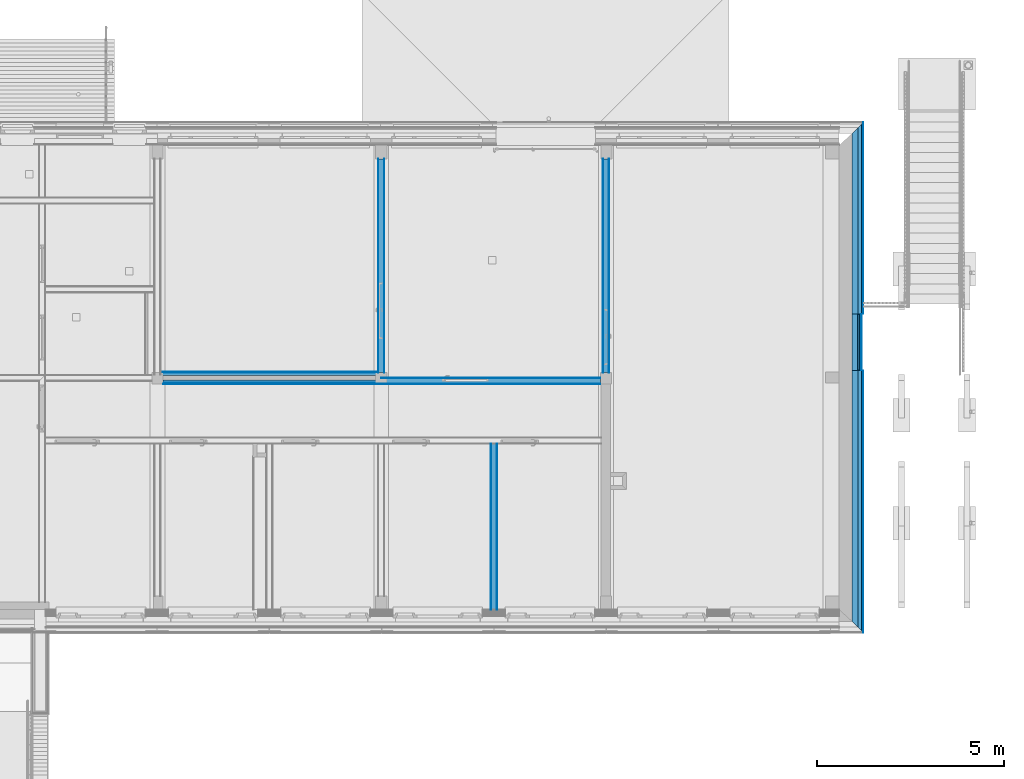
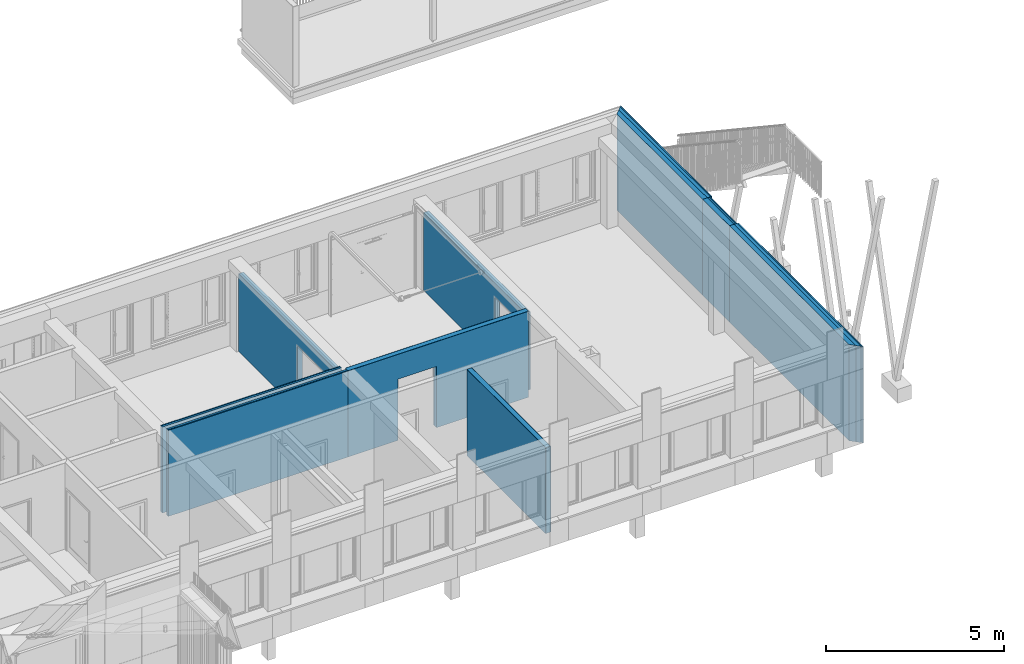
# One storey, part 44 of 418: 26 building element parts, 20 openings, 8 elements without a shape of their own.
"""IFC2X3 building model written with IfcOpenShell, lengths in millimetres."""

from ifc_helpers import new_model, entity, si_unit, converted_unit, derived_unit, money_unit, direction, frame, origin_with_axes, origin_2d_with_axis, place, context, subcontext, project, spatial, polyline, rectangle, outline, extrude, material, type_object, element, aggregate, save


model = new_model("IFC2X3")

# Units and contexts
model_context = context("Model", 3, precision=0.01, world=origin_with_axes(), true_north=direction((0.0, 1.0)))
body_context = subcontext(model_context, "Body", "Model", "MODEL_VIEW")
ifc_project = project(units=[si_unit("LENGTHUNIT", "METRE", prefix="MILLI"), si_unit("AREAUNIT", "SQUARE_METRE"), si_unit("VOLUMEUNIT", "CUBIC_METRE"), converted_unit("PLANEANGLEUNIT", "DEGREE", entity("IfcPlaneAngleMeasure", 0.0174532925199), si_unit("PLANEANGLEUNIT", "RADIAN"), dimensions=[0, 0, 0, 0, 0, 0, 0]), si_unit("SOLIDANGLEUNIT", "STERADIAN"), money_unit("EUR"), converted_unit("TIMEUNIT", "Year", entity("IfcTimeMeasure", 31556926.0), si_unit("TIMEUNIT", "SECOND"), dimensions=[0, 0, 1, 0, 0, 0, 0]), si_unit("MASSUNIT", "GRAM", prefix="KILO"), si_unit("THERMODYNAMICTEMPERATUREUNIT", "DEGREE_CELSIUS"), si_unit("LUMINOUSINTENSITYUNIT", "LUMEN"), si_unit("ENERGYUNIT", "JOULE", prefix="MEGA"), derived_unit("THERMALCONDUCTANCEUNIT", [(si_unit("POWERUNIT", "WATT"), 1), (si_unit("LENGTHUNIT", "METRE"), -1), (si_unit("THERMODYNAMICTEMPERATUREUNIT", "KELVIN"), -1)]), derived_unit("SPECIFICHEATCAPACITYUNIT", [(si_unit("ENERGYUNIT", "JOULE"), 1), (si_unit("MASSUNIT", "GRAM", prefix="KILO"), -1), (si_unit("THERMODYNAMICTEMPERATUREUNIT", "KELVIN"), -1)]), derived_unit("MASSDENSITYUNIT", [(si_unit("MASSUNIT", "GRAM", prefix="KILO"), 1), (si_unit("VOLUMEUNIT", "CUBIC_METRE"), -1)])], contexts=[model_context])

# Site, building, storey
site_placement = place(None, origin_with_axes())
site = spatial("IfcSite", under=ifc_project, at=site_placement, Name="Paldiski mnt 245/1, Tallinn, Harjumaa", CompositionType="COMPLEX")
building_placement = place(site_placement, origin_with_axes())
building = spatial("IfcBuilding", under=site, at=building_placement, Name="RKAS Hoone üldnimetus (kasutust iseloomustav) -> IFC Project Manager -> SOLIBRI", CompositionType="ELEMENT")
storey_placement = place(building_placement, origin_with_axes())
storey = spatial("IfcBuildingStorey", under=building, at=storey_placement, Name="Esimene korrus", CompositionType="ELEMENT", Elevation=0.0)

# Wall, opening, building element parts
wall_type_1 = type_object("IfcWallType", Name="SS-04 170", PredefinedType="NOTDEFINED")
wall_1_placement = place(storey_placement, frame((-23460.0, -470.000007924, 0.0), z_axis=(0.0, 0.0, 1.0), x_axis=(0.0, -1.0, 0.0)))
wall_1 = element("IfcWall", 1, at=wall_1_placement, inside=storey, type_object=wall_type_1, Name="SS-04")
opening_1_placement = place(wall_1_placement, frame((4759.9999061, -1.10134124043e-10, 0.0), z_axis=(0.0, 0.0, 1.0), x_axis=(1.0, 0.0, 0.0)))
element("IfcOpeningElement", 2, at=opening_1_placement, cuts=wall_1, Name="SU-03v", context=body_context, shape_type="SweptSolid", body=[
    extrude(rectangle(XDim=1500.0, YDim=2200.0, at=origin_2d_with_axis()), frame((0.0, -19.9999999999, 1100.0), z_axis=(0.0, -1.0, 0.0), x_axis=(1.0, 0.0, 0.0)), (0.0, 0.0, -1.0), 275.0),
    extrude(rectangle(XDim=1500.0, YDim=2200.0, at=origin_2d_with_axis()), frame((0.0, -19.9999999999, 1100.0), z_axis=(0.0, 1.0, 0.0), x_axis=(1.0, 0.0, 0.0)), (0.0, 0.0, -1.0), 235.0),
    extrude(rectangle(XDim=1574.0, YDim=2237.0, at=origin_2d_with_axis()), frame((0.0, 85.0000000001, 1118.5), z_axis=(0.0, -1.0, 0.0), x_axis=(1.0, 0.0, 0.0)), (0.0, 0.0, -1.0), 235.0),
    extrude(rectangle(XDim=1574.0, YDim=2237.0, at=origin_2d_with_axis()), frame((0.0, -84.9999999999, 1118.5), z_axis=(0.0, 1.0, 0.0), x_axis=(1.0, 0.0, 0.0)), (0.0, 0.0, -1.0), 235.0),
])
ifc_material_1 = material(Name="Krohv")
building_element_part_1_placement = place(wall_1_placement, origin_with_axes())
building_element_part_1 = element("IfcBuildingElementPart", 3, at=building_element_part_1_placement, material=ifc_material_1, Name="Krohv", context=body_context, shape_type="SweptSolid", body=[
    extrude(outline(polyline([(0.0, -85.0), (5709.99999208, -85.0), (5709.99999208, -75.0), (0.0, -75.0), (0.0, -85.0)])), origin_with_axes(), (0.0, 0.0, 1.0), 2670.0),
])
ifc_material_2 = material(Name="FIBO 5")
building_element_part_2_placement = place(wall_1_placement, origin_with_axes())
building_element_part_2 = element("IfcBuildingElementPart", 4, at=building_element_part_2_placement, material=ifc_material_2, Name="FIBO 5", context=body_context, shape_type="SweptSolid", body=[
    extrude(outline(polyline([(0.0, -75.0), (5709.99999208, -75.0), (5709.99999208, 75.0), (0.0, 75.0), (0.0, -75.0)])), origin_with_axes(), (0.0, 0.0, 1.0), 2670.0),
])
building_element_part_3_placement = place(wall_1_placement, origin_with_axes())
building_element_part_3 = element("IfcBuildingElementPart", 5, at=building_element_part_3_placement, material=ifc_material_1, Name="Krohv", context=body_context, shape_type="SweptSolid", body=[
    extrude(outline(polyline([(0.0, 75.0), (5709.99999208, 75.0), (5709.99999208, 85.0), (0.0, 85.0), (0.0, 75.0)])), origin_with_axes(), (0.0, 0.0, 1.0), 2670.0),
])
aggregate(wall_1, [building_element_part_1, building_element_part_2, building_element_part_3])

wall_2_placement = place(storey_placement, frame((-29460.0, -469.999999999, 0.0), z_axis=(0.0, 0.0, 1.0), x_axis=(0.0, -1.0, 0.0)))
wall_2 = element("IfcWall", 6, at=wall_2_placement, inside=storey, type_object=wall_type_1, Name="SS-04")
opening_2_placement = place(wall_2_placement, frame((4060.00006356, 0.0, 0.0), z_axis=(0.0, 0.0, 1.0), x_axis=(1.0, 0.0, 0.0)))
element("IfcOpeningElement", 7, at=opening_2_placement, cuts=wall_2, Name="SU-03p", context=body_context, shape_type="SweptSolid", body=[
    extrude(rectangle(XDim=1500.0, YDim=2200.0, at=origin_2d_with_axis()), frame((0.0, 20.0000000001, 1100.0), z_axis=(0.0, -1.0, 0.0), x_axis=(1.0, 0.0, 0.0)), (0.0, 0.0, 1.0), 275.0),
    extrude(rectangle(XDim=1500.0, YDim=2200.0, at=origin_2d_with_axis()), frame((0.0, 20.0000000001, 1100.0), z_axis=(0.0, 1.0, 0.0), x_axis=(1.0, 0.0, 0.0)), (0.0, 0.0, 1.0), 235.0),
    extrude(rectangle(XDim=1574.0, YDim=2237.0, at=origin_2d_with_axis()), frame((0.0, -84.9999999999, 1118.5), z_axis=(0.0, -1.0, 0.0), x_axis=(1.0, 0.0, 0.0)), (0.0, 0.0, 1.0), 235.0),
    extrude(rectangle(XDim=1574.0, YDim=2237.0, at=origin_2d_with_axis()), frame((0.0, 85.0000000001, 1118.5), z_axis=(0.0, 1.0, 0.0), x_axis=(1.0, 0.0, 0.0)), (0.0, 0.0, 1.0), 235.0),
])
building_element_part_4_placement = place(wall_2_placement, origin_with_axes())
building_element_part_4 = element("IfcBuildingElementPart", 8, at=building_element_part_4_placement, material=ifc_material_1, Name="Krohv", context=body_context, shape_type="SweptSolid", body=[
    extrude(outline(polyline([(0.0, 75.0), (5710.0, 75.0), (5710.0, 85.0), (0.0, 85.0), (0.0, 75.0)])), origin_with_axes(), (0.0, 0.0, 1.0), 2670.0),
])
building_element_part_5_placement = place(wall_2_placement, origin_with_axes())
building_element_part_5 = element("IfcBuildingElementPart", 9, at=building_element_part_5_placement, material=ifc_material_2, Name="FIBO 5", context=body_context, shape_type="SweptSolid", body=[
    extrude(outline(polyline([(0.0, -75.0), (5710.0, -75.0), (5710.0, 75.0), (0.0, 75.0), (0.0, -75.0)])), origin_with_axes(), (0.0, 0.0, 1.0), 2670.0),
])
building_element_part_6_placement = place(wall_2_placement, origin_with_axes())
building_element_part_6 = element("IfcBuildingElementPart", 10, at=building_element_part_6_placement, material=ifc_material_1, Name="Krohv", context=body_context, shape_type="SweptSolid", body=[
    extrude(outline(polyline([(0.0, -85.0), (5710.0, -85.0), (5710.0, -75.0), (0.0, -75.0), (0.0, -85.0)])), origin_with_axes(), (0.0, 0.0, 1.0), 2670.0),
])
aggregate(wall_2, [building_element_part_4, building_element_part_5, building_element_part_6])

wall_3_placement = place(storey_placement, frame((-29460.0, -6486.00001571, 0.0), z_axis=(0.0, 0.0, 1.0), x_axis=(1.0, 0.0, 0.0)))
wall_3 = element("IfcWall", 11, at=wall_3_placement, inside=storey, type_object=wall_type_1, Name="SS-04")
opening_3_placement = place(wall_3_placement, frame((2245.43099411, 0.0, 0.0), z_axis=(0.0, 0.0, 1.0), x_axis=(1.0, 0.0, 0.0)))
element("IfcOpeningElement", 12, at=opening_3_placement, cuts=wall_3, Name="TSU-02v", context=body_context, shape_type="SweptSolid", body=[
    extrude(rectangle(XDim=1250.0, YDim=2100.0, at=origin_2d_with_axis()), frame((0.0, 65.0, 1050.0), z_axis=(0.0, -1.0, 0.0), x_axis=(1.0, 0.0, 0.0)), (0.0, 0.0, -1.0), 275.0),
    extrude(rectangle(XDim=1250.0, YDim=2100.0, at=origin_2d_with_axis()), frame((0.0, 65.0, 1050.0), z_axis=(0.0, 1.0, 0.0), x_axis=(1.0, 0.0, 0.0)), (0.0, 0.0, -1.0), 235.0),
    extrude(rectangle(XDim=1364.0, YDim=2157.0, at=origin_2d_with_axis()), frame((0.0, 170.0, 1078.5), z_axis=(0.0, -1.0, 0.0), x_axis=(1.0, 0.0, 0.0)), (0.0, 0.0, -1.0), 235.0),
])
building_element_part_7_placement = place(wall_3_placement, origin_with_axes())
building_element_part_7 = element("IfcBuildingElementPart", 13, at=building_element_part_7_placement, material=ifc_material_1, Name="Krohv", context=body_context, shape_type="SweptSolid", body=[
    extrude(outline(polyline([(0.0, 0.0), (5850.0, 0.0), (5850.0, 10.0), (0.0, 10.0), (0.0, 0.0)])), origin_with_axes(), (0.0, 0.0, 1.0), 2950.0),
])
building_element_part_8_placement = place(wall_3_placement, origin_with_axes())
building_element_part_8 = element("IfcBuildingElementPart", 14, at=building_element_part_8_placement, material=ifc_material_2, Name="FIBO 5", context=body_context, shape_type="SweptSolid", body=[
    extrude(outline(polyline([(0.0, 10.0), (5850.0, 10.0), (5850.0, 160.0), (0.0, 160.0), (0.0, 10.0)])), origin_with_axes(), (0.0, 0.0, 1.0), 2950.0),
])
building_element_part_9_placement = place(wall_3_placement, origin_with_axes())
building_element_part_9 = element("IfcBuildingElementPart", 15, at=building_element_part_9_placement, material=ifc_material_1, Name="Krohv", context=body_context, shape_type="SweptSolid", body=[
    extrude(outline(polyline([(0.0, 160.0), (5850.0, 160.0), (5850.0, 170.0), (0.0, 170.0), (0.0, 160.0)])), origin_with_axes(), (0.0, 0.0, 1.0), 2950.0),
])
aggregate(wall_3, [building_element_part_7, building_element_part_8, building_element_part_9])

# Wall, building element parts
wall_4_placement = place(storey_placement, frame((-26450.0, -12512.0843011, 0.0), z_axis=(0.0, 0.0, 1.0), x_axis=(0.0, 1.0, 0.0)))
wall_4 = element("IfcWall", 16, at=wall_4_placement, inside=storey, type_object=wall_type_1, Name="SS-04")
building_element_part_10_placement = place(wall_4_placement, origin_with_axes())
building_element_part_10 = element("IfcBuildingElementPart", 17, at=building_element_part_10_placement, material=ifc_material_1, Name="Krohv", context=body_context, shape_type="SweptSolid", body=[
    extrude(outline(polyline([(0.0, 75.0), (4427.08430108, 75.0), (4427.08430108, 85.0), (0.0, 85.0), (0.0, 75.0)])), origin_with_axes(), (0.0, 0.0, 1.0), 2950.0),
])
building_element_part_11_placement = place(wall_4_placement, origin_with_axes())
building_element_part_11 = element("IfcBuildingElementPart", 18, at=building_element_part_11_placement, material=ifc_material_2, Name="FIBO 5", context=body_context, shape_type="SweptSolid", body=[
    extrude(outline(polyline([(0.0, -75.0), (4427.08430108, -75.0), (4427.08430108, 75.0), (0.0, 75.0), (0.0, -75.0)])), origin_with_axes(), (0.0, 0.0, 1.0), 2950.0),
])
building_element_part_12_placement = place(wall_4_placement, origin_with_axes())
building_element_part_12 = element("IfcBuildingElementPart", 19, at=building_element_part_12_placement, material=ifc_material_1, Name="Krohv", context=body_context, shape_type="SweptSolid", body=[
    extrude(outline(polyline([(0.0, -85.0), (4427.08430108, -85.0), (4427.08430108, -75.0), (0.0, -75.0), (0.0, -85.0)])), origin_with_axes(), (0.0, 0.0, 1.0), 2950.0),
])
aggregate(wall_4, [building_element_part_10, building_element_part_11, building_element_part_12])

wall_type_2 = type_object("IfcWallType", Name="SS-05_sisekihid 101", PredefinedType="NOTDEFINED")
wall_5_placement = place(storey_placement, frame((-35440.0, -6154.00001571, 0.0), z_axis=(0.0, 0.0, 1.0), x_axis=(1.0, 0.0, 0.0)))
wall_5 = element("IfcWall", 20, at=wall_5_placement, inside=storey, type_object=wall_type_2, Name="SS-05")
ifc_material_3 = material(Name="Kipsplaat Knauf GKF vm")
building_element_part_13_placement = place(wall_5_placement, origin_with_axes())
building_element_part_13 = element("IfcBuildingElementPart", 21, at=building_element_part_13_placement, material=ifc_material_3, Name="Kipsplaat Knauf GKF vm", context=body_context, shape_type="SweptSolid", body=[
    extrude(outline(polyline([(85.0, -13.0), (5895.0, -13.0), (5895.0, 0.0), (85.0, 0.0), (85.0, -13.0)])), origin_with_axes(), (0.0, 0.0, 1.0), 2950.0),
])
ifc_material_4 = material(Name="OSB plaat")
building_element_part_14_placement = place(wall_5_placement, origin_with_axes())
building_element_part_14 = element("IfcBuildingElementPart", 22, at=building_element_part_14_placement, material=ifc_material_4, Name="OSB plaat", context=body_context, shape_type="SweptSolid", body=[
    extrude(outline(polyline([(85.0, -35.0), (5895.0, -35.0), (5895.0, -13.0), (85.0, -13.0), (85.0, -35.0)])), origin_with_axes(), (0.0, 0.0, 1.0), 2950.0),
])
ifc_material_5 = material(Name="Isover Acoustic")
building_element_part_15_placement = place(wall_5_placement, origin_with_axes())
building_element_part_15 = element("IfcBuildingElementPart", 23, at=building_element_part_15_placement, material=ifc_material_5, Name="Isover Acoustic", context=body_context, shape_type="SweptSolid", body=[
    extrude(outline(polyline([(85.0, -101.0), (5895.0, -101.0), (5895.0, -35.0), (85.0, -35.0), (85.0, -101.0)])), origin_with_axes(), (0.0, 0.0, 1.0), 2950.0),
])
aggregate(wall_5, [building_element_part_13, building_element_part_14, building_element_part_15])

wall_6_placement = place(storey_placement, frame((-35289.9999886, -6486.00001571, 0.0), z_axis=(0.0, 0.0, 1.0), x_axis=(1.0, 0.0, 0.0)))
wall_6 = element("IfcWall", 24, at=wall_6_placement, inside=storey, type_object=wall_type_2, Name="SS-05")
building_element_part_16_placement = place(wall_6_placement, origin_with_axes())
building_element_part_16 = element("IfcBuildingElementPart", 25, at=building_element_part_16_placement, material=ifc_material_3, Name="Kipsplaat Knauf GKF vm", context=body_context, shape_type="SweptSolid", body=[
    extrude(outline(polyline([(0.0, 0.0), (5829.99998856, 0.0), (5829.99998856, 13.0), (0.0, 13.0), (0.0, 0.0)])), origin_with_axes(), (0.0, 0.0, 1.0), 2950.0),
])
building_element_part_17_placement = place(wall_6_placement, origin_with_axes())
building_element_part_17 = element("IfcBuildingElementPart", 26, at=building_element_part_17_placement, material=ifc_material_4, Name="OSB plaat", context=body_context, shape_type="SweptSolid", body=[
    extrude(outline(polyline([(0.0, 13.0), (5829.99998856, 13.0), (5829.99998856, 35.0), (0.0, 35.0), (0.0, 13.0)])), origin_with_axes(), (0.0, 0.0, 1.0), 2950.0),
])
building_element_part_18_placement = place(wall_6_placement, origin_with_axes())
building_element_part_18 = element("IfcBuildingElementPart", 27, at=building_element_part_18_placement, material=ifc_material_5, Name="Isover Acoustic", context=body_context, shape_type="SweptSolid", body=[
    extrude(outline(polyline([(0.0, 35.0), (5829.99998856, 35.0), (5829.99998856, 101.0), (0.0, 101.0), (0.0, 35.0)])), origin_with_axes(), (0.0, 0.0, 1.0), 2950.0),
])
aggregate(wall_6, [building_element_part_16, building_element_part_17, building_element_part_18])

# Wall, openings, building element parts
wall_type_3 = type_object("IfcWallType", Name="VS-03.1_uued_kihid 250", PredefinedType="NOTDEFINED")
wall_7_placement = place(storey_placement, frame((-16880.0, -4618.14027459, 0.0), z_axis=(0.0, 0.0, 1.0), x_axis=(0.0, -1.0, 0.0)))
wall_7 = element("IfcWall", 28, at=wall_7_placement, inside=storey, type_object=wall_type_3, Name="VS-03.1")
opening_4_placement = place(wall_7_placement, frame((750.00002031, 0.0, 0.0), z_axis=(0.0, 0.0, 1.0), x_axis=(1.0, 0.0, 0.0)))
element("IfcOpeningElement", 29, at=opening_4_placement, cuts=wall_7, Name="Cembrit fassaadiplaadi vuuk", context=body_context, shape_type="SweptSolid", body=[
    extrude(outline(polyline([(-4.0, 0.0), (4.0, 0.0), (4.0, 3300.0), (-4.0, 3300.0), (-4.0, 0.0)])), frame((0.0, 242.0, 0.0), z_axis=(0.0, -1.0, 0.0), x_axis=(1.0, 0.0, 0.0)), (0.0, 0.0, -1.0), 258.0),
])
opening_5_placement = place(wall_7_placement, frame((750.000009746, 0.0, 2552.0), z_axis=(0.0, 0.0, 1.0), x_axis=(1.0, 0.0, 0.0)))
element("IfcOpeningElement", 30, at=opening_5_placement, cuts=wall_7, Name="Cembrit fassaadiplaadi vuuk", context=body_context, shape_type="SweptSolid", body=[
    extrude(outline(polyline([(-750.0, 0.0), (750.0, 0.0), (750.0, 8.0), (-750.0, 8.0), (-750.0, 0.0)])), frame((0.0, 242.0, 0.0), z_axis=(0.0, -1.0, 0.0), x_axis=(1.0, 0.0, 0.0)), (0.0, 0.0, -1.0), 258.0),
])
opening_6_placement = place(wall_7_placement, frame((750.000009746, 0.0, 810.0), z_axis=(0.0, 0.0, 1.0), x_axis=(1.0, 0.0, 0.0)))
element("IfcOpeningElement", 31, at=opening_6_placement, cuts=wall_7, Name="Cembrit fassaadiplaadi vuuk", context=body_context, shape_type="SweptSolid", body=[
    extrude(outline(polyline([(-750.0, 0.0), (750.0, 0.0), (750.0, 8.0), (-750.0, 8.0), (-750.0, 0.0)])), frame((0.0, 242.0, 0.0), z_axis=(0.0, -1.0, 0.0), x_axis=(1.0, 0.0, 0.0)), (0.0, 0.0, -1.0), 258.0),
])
ifc_material_6 = material(Name="Cembrit_C060")
building_element_part_19_placement = place(wall_7_placement, origin_with_axes())
building_element_part_19 = element("IfcBuildingElementPart", 32, at=building_element_part_19_placement, material=ifc_material_6, Name="Cembrit_C060", context=body_context, shape_type="SweptSolid", body=[
    extrude(outline(polyline([(0.0, 242.0), (1499.9999106, 242.0), (1499.9999106, 250.0), (0.0, 250.0), (0.0, 242.0)])), origin_with_axes(), (0.0, 0.0, 1.0), 3300.0),
])
ifc_material_7 = material(Name="VKR-06_Õhkvahe")
building_element_part_20_placement = place(wall_7_placement, origin_with_axes())
building_element_part_20 = element("IfcBuildingElementPart", 33, at=building_element_part_20_placement, material=ifc_material_7, Name="VKR-06_Õhkvahe", context=body_context, shape_type="SweptSolid", body=[
    extrude(outline(polyline([(0.0, 200.0), (1499.9999106, 200.0), (1499.9999106, 242.0), (0.0, 242.0), (0.0, 200.0)])), origin_with_axes(), (0.0, 0.0, 1.0), 3300.0),
])
ifc_material_8 = material(Name="Kingspan Kooltherm")
building_element_part_21_placement = place(wall_7_placement, origin_with_axes())
building_element_part_21 = element("IfcBuildingElementPart", 34, at=building_element_part_21_placement, material=ifc_material_8, Name="Kingspan Kooltherm", context=body_context, shape_type="SweptSolid", body=[
    extrude(outline(polyline([(0.0, 150.0), (1499.9999106, 150.0), (1499.9999106, 200.0), (0.0, 200.0), (0.0, 150.0)])), origin_with_axes(), (0.0, 0.0, 1.0), 3300.0),
])
building_element_part_22_placement = place(wall_7_placement, origin_with_axes())
building_element_part_22 = element("IfcBuildingElementPart", 35, at=building_element_part_22_placement, material=ifc_material_8, Name="Kingspan Kooltherm", context=body_context, shape_type="SweptSolid", body=[
    extrude(outline(polyline([(0.0, 0.0), (1499.9999106, 0.0), (1499.9999106, 150.0), (0.0, 150.0), (0.0, 0.0)])), origin_with_axes(), (0.0, 0.0, 1.0), 3300.0),
])
aggregate(wall_7, [building_element_part_19, building_element_part_20, building_element_part_21, building_element_part_22])

wall_type_4 = type_object("IfcWallType", Name="VS-03_uued_kihid 300", PredefinedType="NOTDEFINED")
wall_8_placement = place(storey_placement, frame((-16879.9999755, -12830.0843011, 0.0), z_axis=(0.0, 0.0, 1.0), x_axis=(0.0, 1.0, 0.0)))
wall_8 = element("IfcWall", 36, at=wall_8_placement, inside=storey, type_object=wall_type_4, Name="VS-03")
opening_7_placement = place(wall_8_placement, frame((6707.94415083, -1.45661260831e-10, 0.0), z_axis=(0.0, 0.0, 1.0), x_axis=(1.0, 0.0, 0.0)))
element("IfcOpeningElement", 37, at=opening_7_placement, cuts=wall_8, Name="Cembrit fassaadiplaadi vuuk", context=body_context, shape_type="SweptSolid", body=[
    extrude(outline(polyline([(-4.00000000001, 0.0), (3.99999999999, 0.0), (3.99999999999, 3300.0), (-4.00000000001, 3300.0), (-4.00000000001, 0.0)])), frame((0.0, -292.0, 0.0), z_axis=(0.0, -1.0, 0.0), x_axis=(1.0, 0.0, 0.0)), (0.0, 0.0, 1.0), 308.0),
])
opening_8_placement = place(wall_8_placement, frame((8215.94415083, -1.7763568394e-10, 0.0), z_axis=(0.0, 0.0, 1.0), x_axis=(1.0, 0.0, 0.0)))
element("IfcOpeningElement", 38, at=opening_8_placement, cuts=wall_8, Name="Cembrit fassaadiplaadi vuuk", context=body_context, shape_type="SweptSolid", body=[
    extrude(outline(polyline([(-4.00000000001, 0.0), (3.99999999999, 0.0), (3.99999999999, 3300.0), (-4.00000000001, 3300.0), (-4.00000000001, 0.0)])), frame((0.0, -292.0, 0.0), z_axis=(0.0, -1.0, 0.0), x_axis=(1.0, 0.0, 0.0)), (0.0, 0.0, 1.0), 308.0),
])
opening_9_placement = place(wall_8_placement, frame((5507.94415083, -1.20792265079e-10, 0.0), z_axis=(0.0, 0.0, 1.0), x_axis=(1.0, 0.0, 0.0)))
element("IfcOpeningElement", 39, at=opening_9_placement, cuts=wall_8, Name="Cembrit fassaadiplaadi vuuk", context=body_context, shape_type="SweptSolid", body=[
    extrude(outline(polyline([(-4.00000000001, 0.0), (3.99999999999, 0.0), (3.99999999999, 3300.0), (-4.00000000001, 3300.0), (-4.00000000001, 0.0)])), frame((0.0, -292.0, 0.0), z_axis=(0.0, -1.0, 0.0), x_axis=(1.0, 0.0, 0.0)), (0.0, 0.0, 1.0), 308.0),
])
opening_10_placement = place(wall_8_placement, frame((4307.94415083, 0.0, 0.0), z_axis=(0.0, 0.0, 1.0), x_axis=(1.0, 0.0, 0.0)))
element("IfcOpeningElement", 40, at=opening_10_placement, cuts=wall_8, Name="Cembrit fassaadiplaadi vuuk", context=body_context, shape_type="SweptSolid", body=[
    extrude(outline(polyline([(-4.00000000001, 0.0), (3.99999999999, 0.0), (3.99999999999, 3300.0), (-4.00000000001, 3300.0), (-4.00000000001, 0.0)])), frame((0.0, -292.0, 0.0), z_axis=(0.0, -1.0, 0.0), x_axis=(1.0, 0.0, 0.0)), (0.0, 0.0, 1.0), 308.0),
])
opening_11_placement = place(wall_8_placement, frame((3107.94415083, 0.0, 0.0), z_axis=(0.0, 0.0, 1.0), x_axis=(1.0, 0.0, 0.0)))
element("IfcOpeningElement", 41, at=opening_11_placement, cuts=wall_8, Name="Cembrit fassaadiplaadi vuuk", context=body_context, shape_type="SweptSolid", body=[
    extrude(outline(polyline([(-4.00000000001, 0.0), (3.99999999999, 0.0), (3.99999999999, 3300.0), (-4.00000000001, 3300.0), (-4.00000000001, 0.0)])), frame((0.0, -292.0, 0.0), z_axis=(0.0, -1.0, 0.0), x_axis=(1.0, 0.0, 0.0)), (0.0, 0.0, 1.0), 308.0),
])
opening_12_placement = place(wall_8_placement, frame((1907.94415083, 0.0, 0.0), z_axis=(0.0, 0.0, 1.0), x_axis=(1.0, 0.0, 0.0)))
element("IfcOpeningElement", 42, at=opening_12_placement, cuts=wall_8, Name="Cembrit fassaadiplaadi vuuk", context=body_context, shape_type="SweptSolid", body=[
    extrude(outline(polyline([(-4.00000000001, 0.0), (3.99999999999, 0.0), (3.99999999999, 3300.0), (-4.00000000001, 3300.0), (-4.00000000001, 0.0)])), frame((0.0, -292.0, 0.0), z_axis=(0.0, -1.0, 0.0), x_axis=(1.0, 0.0, 0.0)), (0.0, 0.0, 1.0), 308.0),
])
opening_13_placement = place(wall_8_placement, frame((707.944150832, 0.0, 0.0), z_axis=(0.0, 0.0, 1.0), x_axis=(1.0, 0.0, 0.0)))
element("IfcOpeningElement", 43, at=opening_13_placement, cuts=wall_8, Name="Cembrit fassaadiplaadi vuuk", context=body_context, shape_type="SweptSolid", body=[
    extrude(outline(polyline([(-4.00000000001, 0.0), (3.99999999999, 0.0), (3.99999999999, 3300.0), (-4.00000000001, 3300.0), (-4.00000000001, 0.0)])), frame((0.0, -292.0, 0.0), z_axis=(0.0, -1.0, 0.0), x_axis=(1.0, 0.0, 0.0)), (0.0, 0.0, 1.0), 308.0),
])
opening_14_placement = place(wall_8_placement, frame((6520.04215054, -1.42108547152e-10, 2552.0), z_axis=(0.0, 0.0, 1.0), x_axis=(1.0, 0.0, 0.0)))
element("IfcOpeningElement", 44, at=opening_14_placement, cuts=wall_8, Name="Cembrit fassaadiplaadi vuuk", context=body_context, shape_type="SweptSolid", body=[
    extrude(outline(polyline([(-6820.04215054, 0.0), (6820.04215054, 0.0), (6820.04215054, 8.0), (-6820.04215054, 8.0), (-6820.04215054, 0.0)])), frame((0.0, -292.0, 0.0), z_axis=(0.0, -1.0, 0.0), x_axis=(1.0, 0.0, 0.0)), (0.0, 0.0, 1.0), 308.0),
])
opening_15_placement = place(wall_8_placement, frame((6520.04215054, -1.42108547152e-10, 810.0), z_axis=(0.0, 0.0, 1.0), x_axis=(1.0, 0.0, 0.0)))
element("IfcOpeningElement", 45, at=opening_15_placement, cuts=wall_8, Name="Cembrit fassaadiplaadi vuuk", context=body_context, shape_type="SweptSolid", body=[
    extrude(outline(polyline([(-6820.04215054, 0.0), (6820.04215054, 0.0), (6820.04215054, 8.0), (-6820.04215054, 8.0), (-6820.04215054, 0.0)])), frame((0.0, -292.0, 0.0), z_axis=(0.0, -1.0, 0.0), x_axis=(1.0, 0.0, 0.0)), (0.0, 0.0, 1.0), 308.0),
])
opening_16_placement = place(wall_8_placement, frame((9415.94415083, -2.0605739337e-10, 0.0), z_axis=(0.0, 0.0, 1.0), x_axis=(1.0, 0.0, 0.0)))
element("IfcOpeningElement", 46, at=opening_16_placement, cuts=wall_8, Name="Cembrit fassaadiplaadi vuuk", context=body_context, shape_type="SweptSolid", body=[
    extrude(outline(polyline([(-4.00000000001, 0.0), (3.99999999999, 0.0), (3.99999999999, 3300.0), (-4.00000000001, 3300.0), (-4.00000000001, 0.0)])), frame((0.0, -292.0, 0.0), z_axis=(0.0, -1.0, 0.0), x_axis=(1.0, 0.0, 0.0)), (0.0, 0.0, 1.0), 308.0),
])
opening_17_placement = place(wall_8_placement, frame((10615.9441508, -2.30926389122e-10, 0.0), z_axis=(0.0, 0.0, 1.0), x_axis=(1.0, 0.0, 0.0)))
element("IfcOpeningElement", 47, at=opening_17_placement, cuts=wall_8, Name="Cembrit fassaadiplaadi vuuk", context=body_context, shape_type="SweptSolid", body=[
    extrude(outline(polyline([(-4.00000000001, 0.0), (3.99999999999, 0.0), (3.99999999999, 3300.0), (-4.00000000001, 3300.0), (-4.00000000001, 0.0)])), frame((0.0, -292.0, 0.0), z_axis=(0.0, -1.0, 0.0), x_axis=(1.0, 0.0, 0.0)), (0.0, 0.0, 1.0), 308.0),
])
opening_18_placement = place(wall_8_placement, frame((11815.9441508, -2.55795384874e-10, 0.0), z_axis=(0.0, 0.0, 1.0), x_axis=(1.0, 0.0, 0.0)))
element("IfcOpeningElement", 48, at=opening_18_placement, cuts=wall_8, Name="Cembrit fassaadiplaadi vuuk", context=body_context, shape_type="SweptSolid", body=[
    extrude(outline(polyline([(-4.00000000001, 0.0), (3.99999999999, 0.0), (3.99999999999, 3300.0), (-4.00000000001, 3300.0), (-4.00000000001, 0.0)])), frame((0.0, -292.0, 0.0), z_axis=(0.0, -1.0, 0.0), x_axis=(1.0, 0.0, 0.0)), (0.0, 0.0, 1.0), 308.0),
])
opening_19_placement = place(wall_8_placement, frame((13015.9441508, -2.84217094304e-10, 0.0), z_axis=(0.0, 0.0, 1.0), x_axis=(1.0, 0.0, 0.0)))
element("IfcOpeningElement", 49, at=opening_19_placement, cuts=wall_8, Name="Cembrit fassaadiplaadi vuuk", context=body_context, shape_type="SweptSolid", body=[
    extrude(outline(polyline([(-4.00000000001, 0.0), (3.99999999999, 0.0), (3.99999999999, 3300.0), (-4.00000000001, 3300.0), (-4.00000000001, 0.0)])), frame((0.0, -292.0, 0.0), z_axis=(0.0, -1.0, 0.0), x_axis=(1.0, 0.0, 0.0)), (0.0, 0.0, 1.0), 308.0),
])
opening_20_placement = place(wall_8_placement, frame((12830.0843011, -16879.9999755, 0.0), z_axis=(0.0, 0.0, 1.0), x_axis=(0.0, -1.0, 0.0)))
element("IfcOpeningElement", 50, at=opening_20_placement, cuts=wall_8, Name="AVA", ObjectType="OPENING", context=body_context, shape_type="SweptSolid", body=[
    extrude(rectangle(XDim=1500.0, YDim=3300.0, at=origin_2d_with_axis()), frame((-16899.9999755, -5368.1400511, 1650.0), z_axis=(1.0, 0.0, 0.0), x_axis=(0.0, 1.0, 0.0)), (0.0, 0.0, 1.0), 620.0),
])
ifc_material_9 = material(Name="Cembrit_C020")
building_element_part_23_placement = place(wall_8_placement, origin_with_axes())
building_element_part_23 = element("IfcBuildingElementPart", 51, at=building_element_part_23_placement, material=ifc_material_9, Name="Cembrit_C020", context=body_context, shape_type="SweptSolid", body=[
    extrude(outline(polyline([(-300.0, -300.0), (13340.0843011, -300.0), (13332.0843011, -292.0), (-292.0, -292.0), (-300.0, -300.0)])), origin_with_axes(), (0.0, 0.0, 1.0), 3300.0),
])
building_element_part_24_placement = place(wall_8_placement, origin_with_axes())
building_element_part_24 = element("IfcBuildingElementPart", 52, at=building_element_part_24_placement, material=ifc_material_7, Name="VKR-06_Õhkvahe", context=body_context, shape_type="SweptSolid", body=[
    extrude(outline(polyline([(-292.0, -292.0), (13332.0843011, -292.0), (13290.0843011, -250.0), (-250.0, -250.0), (-292.0, -292.0)])), origin_with_axes(), (0.0, 0.0, 1.0), 3300.0),
])
building_element_part_25_placement = place(wall_8_placement, origin_with_axes())
building_element_part_25 = element("IfcBuildingElementPart", 53, at=building_element_part_25_placement, material=ifc_material_8, Name="Kingspan Kooltherm", context=body_context, shape_type="SweptSolid", body=[
    extrude(outline(polyline([(-250.0, -250.0), (13290.0843011, -250.0), (13190.0843011, -150.0), (-150.0, -150.0), (-250.0, -250.0)])), origin_with_axes(), (0.0, 0.0, 1.0), 3300.0),
])
building_element_part_26_placement = place(wall_8_placement, origin_with_axes())
building_element_part_26 = element("IfcBuildingElementPart", 54, at=building_element_part_26_placement, material=ifc_material_8, Name="Kingspan Kooltherm", context=body_context, shape_type="SweptSolid", body=[
    extrude(outline(polyline([(-150.0, -150.0), (13190.0843011, -150.0), (13040.0843011, 0.0), (0.0, 0.0), (-150.0, -150.0)])), origin_with_axes(), (0.0, 0.0, 1.0), 3300.0),
])
aggregate(wall_8, [building_element_part_23, building_element_part_24, building_element_part_25, building_element_part_26])

save(model, "model.ifc")
